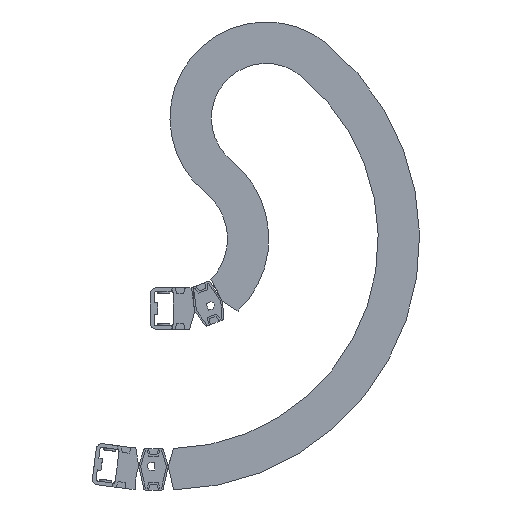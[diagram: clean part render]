
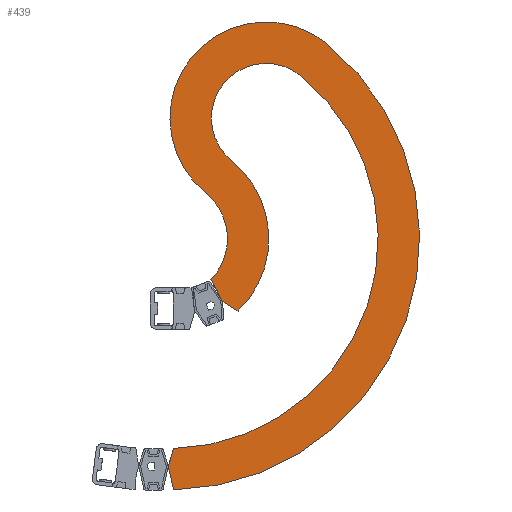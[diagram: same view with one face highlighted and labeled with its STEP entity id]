
A CAD part, front view. The second image highlights one B-rep face of the part: STEP entity #439.
In plain terms, the highlighted planar face has unit normal (0, -1, 0).
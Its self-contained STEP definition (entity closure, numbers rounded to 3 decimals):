
#439 = ADVANCED_FACE( '', ( #1119 ), #1120, .F. );
#1119 = FACE_OUTER_BOUND( '', #2089, .T. );
#1120 = PLANE( '', #2090 );
#2089 = EDGE_LOOP( '', ( #3128, #3129, #3130, #3131, #3132, #3133, #3134, #3135, #3136, #3137 ) );
#2090 = AXIS2_PLACEMENT_3D( '', #3138, #3139, #3140 );
#3128 = ORIENTED_EDGE( '', *, *, #6092, .F. );
#3129 = ORIENTED_EDGE( '', *, *, #6093, .F. );
#3130 = ORIENTED_EDGE( '', *, *, #6018, .F. );
#3131 = ORIENTED_EDGE( '', *, *, #6013, .T. );
#3132 = ORIENTED_EDGE( '', *, *, #6094, .F. );
#3133 = ORIENTED_EDGE( '', *, *, #6095, .F. );
#3134 = ORIENTED_EDGE( '', *, *, #6096, .F. );
#3135 = ORIENTED_EDGE( '', *, *, #6097, .T. );
#3136 = ORIENTED_EDGE( '', *, *, #6098, .T. );
#3137 = ORIENTED_EDGE( '', *, *, #6099, .F. );
#3138 = CARTESIAN_POINT( '', ( 0., -30.5, 0. ) );
#3139 = DIRECTION( '', ( 0., 1., 0. ) );
#3140 = DIRECTION( '', ( 0., 0., 1. ) );
#6013 = EDGE_CURVE( '', #7205, #7206, #7207, .T. );
#6018 = EDGE_CURVE( '', #7205, #7214, #7215, .T. );
#6092 = EDGE_CURVE( '', #7348, #7349, #7350, .T. );
#6093 = EDGE_CURVE( '', #7214, #7348, #7351, .T. );
#6094 = EDGE_CURVE( '', #7352, #7206, #7353, .T. );
#6095 = EDGE_CURVE( '', #7354, #7352, #7355, .T. );
#6096 = EDGE_CURVE( '', #7356, #7354, #7357, .T. );
#6097 = EDGE_CURVE( '', #7356, #7358, #7359, .T. );
#6098 = EDGE_CURVE( '', #7358, #7360, #7361, .T. );
#6099 = EDGE_CURVE( '', #7349, #7360, #7362, .T. );
#7205 = VERTEX_POINT( '', #8975 );
#7206 = VERTEX_POINT( '', #8976 );
#7207 = CIRCLE( '', #8977, 40. );
#7214 = VERTEX_POINT( '', #8986 );
#7215 = CIRCLE( '', #8987, 65. );
#7348 = VERTEX_POINT( '', #9171 );
#7349 = VERTEX_POINT( '', #9172 );
#7350 = LINE( '', #9173, #9174 );
#7351 = CIRCLE( '', #9175, 170. );
#7352 = VERTEX_POINT( '', #9176 );
#7353 = LINE( '', #9177, #9178 );
#7354 = VERTEX_POINT( '', #9179 );
#7355 = LINE( '', #9180, #9181 );
#7356 = VERTEX_POINT( '', #9182 );
#7357 = CIRCLE( '', #9183, 68. );
#7358 = VERTEX_POINT( '', #9184 );
#7359 = CIRCLE( '', #9185, 37. );
#7360 = VERTEX_POINT( '', #9186 );
#7361 = CIRCLE( '', #9187, 142. );
#7362 = LINE( '', #9188, #9189 );
#8975 = CARTESIAN_POINT( '', ( 25.189, -30.5, 31.073 ) );
#8976 = CARTESIAN_POINT( '', ( 28.827, -30.5, -27.731 ) );
#8977 = AXIS2_PLACEMENT_3D( '', #11484, #11485, #11486 );
#8986 = CARTESIAN_POINT( '', ( 107.051, -30.5, 132.061 ) );
#8987 = AXIS2_PLACEMENT_3D( '', #11492, #11493, #11494 );
#9171 = CARTESIAN_POINT( '', ( 3.57, -30.5, -169.963 ) );
#9172 = CARTESIAN_POINT( '', ( 0., -30.5, -154. ) );
#9173 = CARTESIAN_POINT( '', ( 3.57, -30.5, -169.963 ) );
#9174 = VECTOR( '', #11576, 1000. );
#9175 = AXIS2_PLACEMENT_3D( '', #11577, #11578, #11579 );
#9176 = CARTESIAN_POINT( '', ( 36.684, -30.5, -42.311 ) );
#9177 = CARTESIAN_POINT( '', ( 36.684, -30.5, -42.311 ) );
#9178 = VECTOR( '', #11580, 1000. );
#9179 = CARTESIAN_POINT( '', ( 47.167, -30.5, -48.982 ) );
#9180 = CARTESIAN_POINT( '', ( 47.167, -30.5, -48.982 ) );
#9181 = VECTOR( '', #11581, 1000. );
#9182 = CARTESIAN_POINT( '', ( 42.821, -30.5, 52.824 ) );
#9183 = AXIS2_PLACEMENT_3D( '', #11582, #11583, #11584 );
#9184 = CARTESIAN_POINT( '', ( 89.419, -30.5, 110.309 ) );
#9185 = AXIS2_PLACEMENT_3D( '', #11585, #11586, #11587 );
#9186 = CARTESIAN_POINT( '', ( 3.591, -30.5, -141.955 ) );
#9187 = AXIS2_PLACEMENT_3D( '', #11588, #11589, #11590 );
#9188 = CARTESIAN_POINT( '', ( 0., -30.5, -154. ) );
#9189 = VECTOR( '', #11591, 1000. );
#11484 = CARTESIAN_POINT( '', ( 0., -30.5, 0. ) );
#11485 = DIRECTION( '', ( 0., 1., 0. ) );
#11486 = DIRECTION( '', ( 1., 0., 0. ) );
#11492 = CARTESIAN_POINT( '', ( 66.12, -30.5, 81.567 ) );
#11493 = DIRECTION( '', ( 0., 1., 0. ) );
#11494 = DIRECTION( '', ( 1., 0., 0. ) );
#11576 = DIRECTION( '', ( -0.218, 0., 0.976 ) );
#11577 = CARTESIAN_POINT( '', ( 0., -30.5, 0. ) );
#11578 = DIRECTION( '', ( 0., 1., 0. ) );
#11579 = DIRECTION( '', ( 1., 0., 0. ) );
#11580 = DIRECTION( '', ( -0.474, 0., 0.88 ) );
#11581 = DIRECTION( '', ( -0.844, 0., 0.537 ) );
#11582 = CARTESIAN_POINT( '', ( 0., -30.5, 0. ) );
#11583 = DIRECTION( '', ( 0., 1., 0. ) );
#11584 = DIRECTION( '', ( 1., 0., 0. ) );
#11585 = CARTESIAN_POINT( '', ( 66.12, -30.5, 81.567 ) );
#11586 = DIRECTION( '', ( 0., 1., 0. ) );
#11587 = DIRECTION( '', ( 1., 0., 0. ) );
#11588 = CARTESIAN_POINT( '', ( 0., -30.5, 0. ) );
#11589 = DIRECTION( '', ( 0., 1., 0. ) );
#11590 = DIRECTION( '', ( 1., 0., 0. ) );
#11591 = DIRECTION( '', ( 0.286, 0., 0.958 ) );
